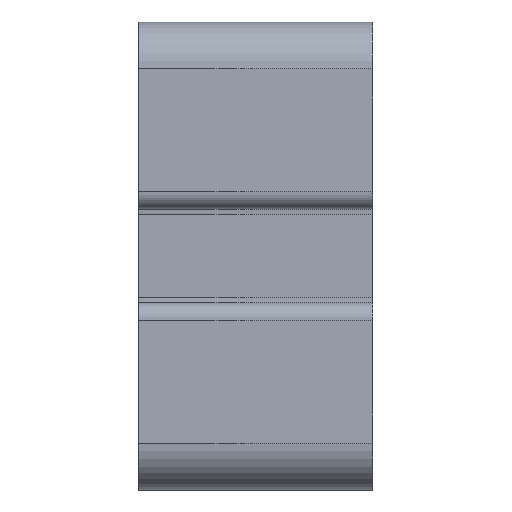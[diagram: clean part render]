
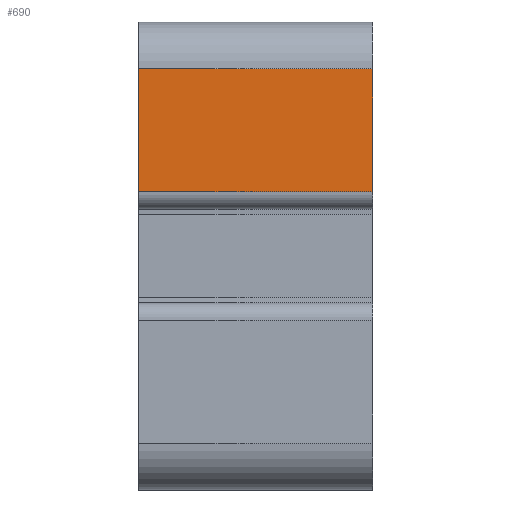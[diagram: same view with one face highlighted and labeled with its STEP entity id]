
A CAD part, left-side view. The second image highlights one B-rep face of the part: STEP entity #690.
In plain terms, the highlighted planar face has unit normal (-1, 0, 0).
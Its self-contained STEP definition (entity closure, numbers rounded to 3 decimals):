
#690=ADVANCED_FACE('',(#1406),#1407,.T.);
#1406=FACE_OUTER_BOUND('',#2149,.T.);
#1407=PLANE('',#2150);
#2149=EDGE_LOOP('',(#4105,#4106,#4107,#4108));
#2150=AXIS2_PLACEMENT_3D('',#4109,#4110,#4111);
#4105=ORIENTED_EDGE('',*,*,#5451,.T.);
#4106=ORIENTED_EDGE('',*,*,#5480,.T.);
#4107=ORIENTED_EDGE('',*,*,#5481,.F.);
#4108=ORIENTED_EDGE('',*,*,#5050,.F.);
#4109=CARTESIAN_POINT('',(-40.0,10.0,0.0));
#4110=DIRECTION('',(-1.0,0.0,0.0));
#4111=DIRECTION('',(0.0,0.0,-1.0));
#5050=EDGE_CURVE('',#6229,#6231,#6232,.T.);
#5451=EDGE_CURVE('',#6229,#6825,#6828,.T.);
#5480=EDGE_CURVE('',#6825,#6865,#6866,.T.);
#5481=EDGE_CURVE('',#6231,#6865,#6867,.T.);
#6229=VERTEX_POINT('',#7847);
#6231=VERTEX_POINT('',#7849);
#6232=LINE('',#7850,#7851);
#6825=VERTEX_POINT('',#8644);
#6828=LINE('',#8647,#8648);
#6865=VERTEX_POINT('',#8699);
#6866=LINE('',#8700,#8701);
#6867=LINE('',#8702,#8703);
#7847=CARTESIAN_POINT('',(-40.,10.0,5.5));
#7849=CARTESIAN_POINT('',(-40.0,10.0,16.0));
#7850=CARTESIAN_POINT('',(-40.0,10.0,-16.0));
#7851=VECTOR('',#9457,1.0);
#8644=CARTESIAN_POINT('',(-40.,-10.0,5.5));
#8647=CARTESIAN_POINT('',(-40.0,10.0,5.5));
#8648=VECTOR('',#9949,1.0);
#8699=CARTESIAN_POINT('',(-40.0,-10.0,16.0));
#8700=CARTESIAN_POINT('',(-40.0,-10.0,-16.0));
#8701=VECTOR('',#9976,1.0);
#8702=CARTESIAN_POINT('',(-40.0,10.0,16.0));
#8703=VECTOR('',#9977,1.0);
#9457=DIRECTION('',(0.0,0.0,1.0));
#9949=DIRECTION('',(0.0,-1.0,0.0));
#9976=DIRECTION('',(0.0,0.0,1.0));
#9977=DIRECTION('',(0.0,-1.0,0.0));
